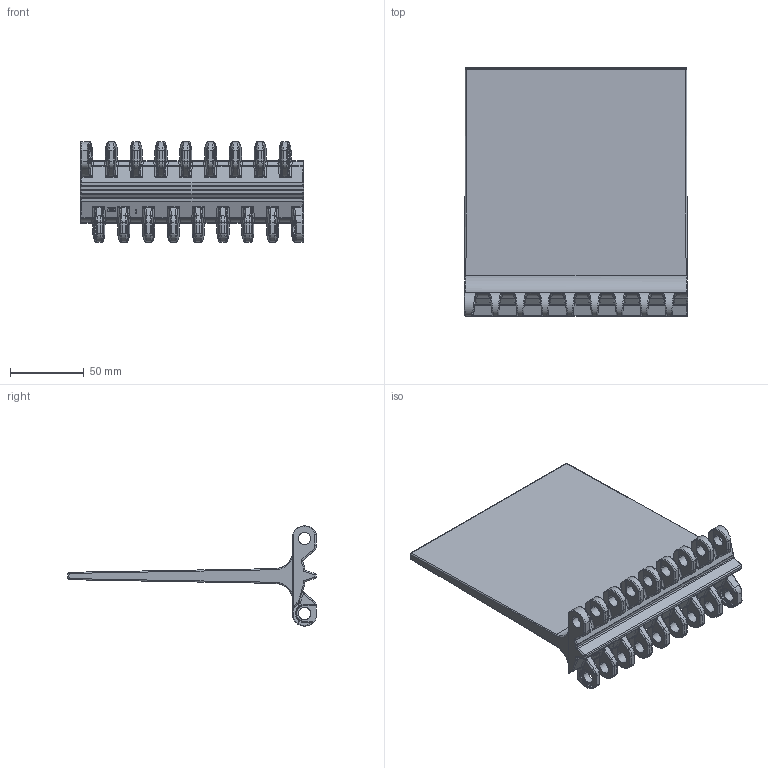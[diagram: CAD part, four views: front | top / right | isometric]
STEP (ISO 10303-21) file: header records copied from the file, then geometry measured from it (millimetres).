
FILE_DESCRIPTION((''),'2;1');
FILE_NAME('P266','2009-08-28T',('jas'),(''),'PRO/ENGINEER BY PARAMETRIC TECHNOLOGY CORPORATION, 2008490','PRO/ENGINEER BY PARAMETRIC TECHNOLOGY CORPORATION, 2008490','');
FILE_SCHEMA(('AUTOMOTIVE_DESIGN { 1 0 10303 214 1 1 1 1 }'));
Products named in the file (1): P266
Bounding box: 151 x 168.4 x 67.79 mm (x, y, z)
Volume: 250741.2 mm3; surface area: 74670.6 mm2
Topology: 1 solids, 1 shells, 1497 faces, 3915 edges, 2410 vertices
Faces by surface type: bspline 707, cylinder 400, plane 364, torus 14, sphere 12
Entity records: 131289 total; most frequent: CARTESIAN_POINT 100669, ORIENTED_EDGE 7830, DIRECTION 4328, EDGE_CURVE 3915, VERTEX_POINT 2410, B_SPLINE_CURVE_WITH_KNOTS 1867, EDGE_LOOP 1523, FACE_OUTER_BOUND 1497
